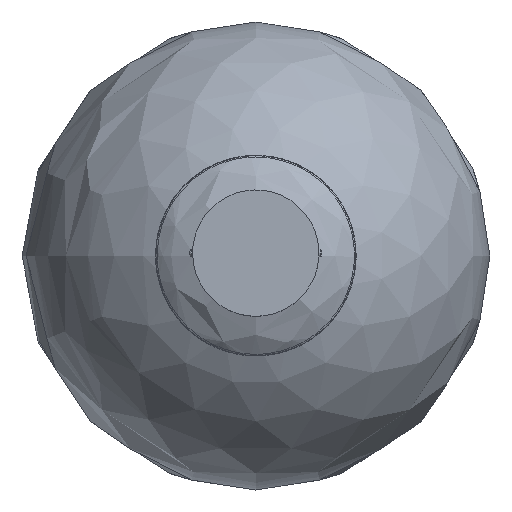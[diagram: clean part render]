
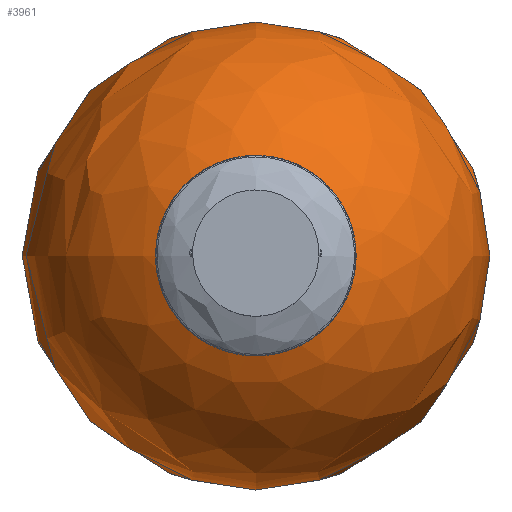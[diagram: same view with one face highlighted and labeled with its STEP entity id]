
A CAD part, top view. The second image highlights one B-rep face of the part: STEP entity #3961.
In plain terms, the highlighted free-form (B-spline) face has degree [2, 2] with [9, 5] control points.
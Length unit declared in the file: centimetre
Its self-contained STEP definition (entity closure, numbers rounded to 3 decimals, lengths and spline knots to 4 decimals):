
#3900 = CARTESIAN_POINT ('', (0., 0.0001, -80.));
#3901 = VERTEX_POINT ('', #3900);
#3902 = CARTESIAN_POINT ('', (0., 0.0001, -30.));
#3903 = VERTEX_POINT ('', #3902);
#3904 = CARTESIAN_POINT ('', (0., 0.0001, -80.));
#3905 = CARTESIAN_POINT ('', (-25., 0.0001, -80.));
#3906 = CARTESIAN_POINT ('', (-25., 0.0001, -55.));
#3907 = CARTESIAN_POINT ('', (-25., 0.0001, -30.));
#3908 = CARTESIAN_POINT ('', (0., 0.0001, -30.));
#3909 = (
   BOUNDED_CURVE ()
   B_SPLINE_CURVE (2, (#3904, #3905, #3906, #3907, #3908), .UNSPECIFIED., .F., .U.)
   B_SPLINE_CURVE_WITH_KNOTS ((3, 2, 3), (0., 0.5, 1.), .UNSPECIFIED.)
   CURVE ()
   GEOMETRIC_REPRESENTATION_ITEM ()
   RATIONAL_B_SPLINE_CURVE ((1., 0.707, 1., 0.707, 1.))
   REPRESENTATION_ITEM ('')
);
#3910 = EDGE_CURVE ('', #3901, #3903, #3909, .T.);
#3911 = ORIENTED_EDGE ('', *, *, #3910, .T.);
#3912 = ORIENTED_EDGE ('', *, *, #3910, .F.);
#3913 = EDGE_LOOP ('', (#3911, #3912));
#3914 = FACE_OUTER_BOUND ('', #3913, .T.);
#3915 = CARTESIAN_POINT ('', (0., 0.0001, -80.));
#3916 = CARTESIAN_POINT ('', (-25., 0.0001, -80.));
#3917 = CARTESIAN_POINT ('', (-25., 0.0001, -55.));
#3918 = CARTESIAN_POINT ('', (-25., 0.0001, -30.));
#3919 = CARTESIAN_POINT ('', (0., 0.0001, -30.));
#3920 = CARTESIAN_POINT ('', (0., 0.0001, -80.));
#3921 = CARTESIAN_POINT ('', (-25., -24.9999, -80.));
#3922 = CARTESIAN_POINT ('', (-25., -24.9999, -55.));
#3923 = CARTESIAN_POINT ('', (-25., -24.9999, -30.));
#3924 = CARTESIAN_POINT ('', (0., 0.0001, -30.));
#3925 = CARTESIAN_POINT ('', (0., 0.0001, -80.));
#3926 = CARTESIAN_POINT ('', (0., -24.9999, -80.));
#3927 = CARTESIAN_POINT ('', (0., -24.9999, -55.));
#3928 = CARTESIAN_POINT ('', (0., -24.9999, -30.));
#3929 = CARTESIAN_POINT ('', (0., 0.0001, -30.));
#3930 = CARTESIAN_POINT ('', (0., 0.0001, -80.));
#3931 = CARTESIAN_POINT ('', (25., -24.9999, -80.));
#3932 = CARTESIAN_POINT ('', (25., -24.9999, -55.));
#3933 = CARTESIAN_POINT ('', (25., -24.9999, -30.));
#3934 = CARTESIAN_POINT ('', (0., 0.0001, -30.));
#3935 = CARTESIAN_POINT ('', (0., 0.0001, -80.));
#3936 = CARTESIAN_POINT ('', (25., 0.0001, -80.));
#3937 = CARTESIAN_POINT ('', (25., 0.0001, -55.));
#3938 = CARTESIAN_POINT ('', (25., 0.0001, -30.));
#3939 = CARTESIAN_POINT ('', (0., 0.0001, -30.));
#3940 = CARTESIAN_POINT ('', (0., 0.0001, -80.));
#3941 = CARTESIAN_POINT ('', (25., 25.0001, -80.));
#3942 = CARTESIAN_POINT ('', (25., 25.0001, -55.));
#3943 = CARTESIAN_POINT ('', (25., 25.0001, -30.));
#3944 = CARTESIAN_POINT ('', (0., 0.0001, -30.));
#3945 = CARTESIAN_POINT ('', (0., 0.0001, -80.));
#3946 = CARTESIAN_POINT ('', (0., 25.0001, -80.));
#3947 = CARTESIAN_POINT ('', (0., 25.0001, -55.));
#3948 = CARTESIAN_POINT ('', (0., 25.0001, -30.));
#3949 = CARTESIAN_POINT ('', (0., 0.0001, -30.));
#3950 = CARTESIAN_POINT ('', (0., 0.0001, -80.));
#3951 = CARTESIAN_POINT ('', (-25., 25.0001, -80.));
#3952 = CARTESIAN_POINT ('', (-25., 25.0001, -55.));
#3953 = CARTESIAN_POINT ('', (-25., 25.0001, -30.));
#3954 = CARTESIAN_POINT ('', (0., 0.0001, -30.));
#3955 = CARTESIAN_POINT ('', (0., 0.0001, -80.));
#3956 = CARTESIAN_POINT ('', (-25., 0.0001, -80.));
#3957 = CARTESIAN_POINT ('', (-25., 0.0001, -55.));
#3958 = CARTESIAN_POINT ('', (-25., 0.0001, -30.));
#3959 = CARTESIAN_POINT ('', (0., 0.0001, -30.));
#3960 = (
   BOUNDED_SURFACE ()
   B_SPLINE_SURFACE (2, 2, ((#3915, #3916, #3917, #3918, #3919), (#3920, #3921, #3922, #3923, #3924), (#3925, #3926, #3927, #3928, #3929), (#3930, #3931, #3932, #3933, #3934), (#3935, #3936, #3937, #3938, #3939), (#3940, #3941, #3942, #3943, #3944), (#3945, #3946, #3947, #3948, #3949), (#3950, #3951, #3952, #3953, #3954), (#3955, #3956, #3957, #3958, #3959)), .UNSPECIFIED., .T., .F., .U.)
   B_SPLINE_SURFACE_WITH_KNOTS ((3, 2, 2, 2, 3), (3, 2, 3), (0., 0.25, 0.5, 0.75, 1.), (0., 0.5, 1.), .UNSPECIFIED.)
   SURFACE ()
   GEOMETRIC_REPRESENTATION_ITEM ()
   RATIONAL_B_SPLINE_SURFACE (((1., 0.707, 1., 0.707, 1.), (0.707, 0.5, 0.707, 0.5, 0.707), (1., 0.707, 1., 0.707, 1.), (0.707, 0.5, 0.707, 0.5, 0.707), (1., 0.707, 1., 0.707, 1.), (0.707, 0.5, 0.707, 0.5, 0.707), (1., 0.707, 1., 0.707, 1.), (0.707, 0.5, 0.707, 0.5, 0.707), (1., 0.707, 1., 0.707, 1.)))
   REPRESENTATION_ITEM ('')
);
#3961 = ADVANCED_FACE ('', (#3914), #3960, .T.);
